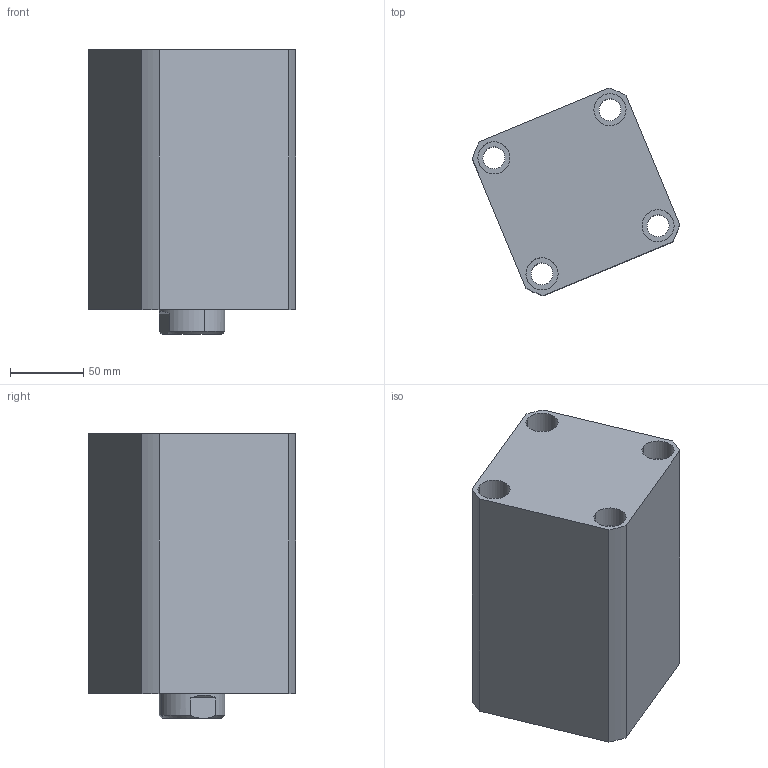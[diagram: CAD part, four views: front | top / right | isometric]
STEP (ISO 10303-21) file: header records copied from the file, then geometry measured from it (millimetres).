
FILE_DESCRIPTION (( 'STEP AP214' ), '1' );
FILE_NAME ('chtb-sd80x100n_asm.STEP', '2018-05-26T04:30:35', ( 'Windows' ), ( 'Microsoft' ), 'SwSTEP 2.0', 'SolidWorks 2015', '' );
FILE_SCHEMA (( 'AUTOMOTIVE_DESIGN' ));
Length unit declared in the file: millimetre
Products named in the file (4): CHTB-SD80X100NHSG; CHTB-SD80X100NBT; CHTB-SD80QG; chtb-sd80x100n_asm
Assembly tree (3 placements, depth 2):
  chtb-sd80x100n_asm
    CHTB-SD80QG
    CHTB-SD80X100NBT
    CHTB-SD80X100NHSG
Bounding box: 142.06 x 142.06 x 195 mm (x, y, z)
Volume: 1775263.5 mm3; surface area: 251473.3 mm2
Topology: 3 solids, 3 shells, 192 faces, 510 edges, 341 vertices
Faces by surface type: cylinder 103, plane 37, cone 20, torus 18, bspline 14
Entity records: 15144 total; most frequent: CARTESIAN_POINT 10435, ORIENTED_EDGE 1008, DIRECTION 889, EDGE_CURVE 504, AXIS2_PLACEMENT_3D 374, VERTEX_POINT 341, EDGE_LOOP 229, ADVANCED_FACE 192
